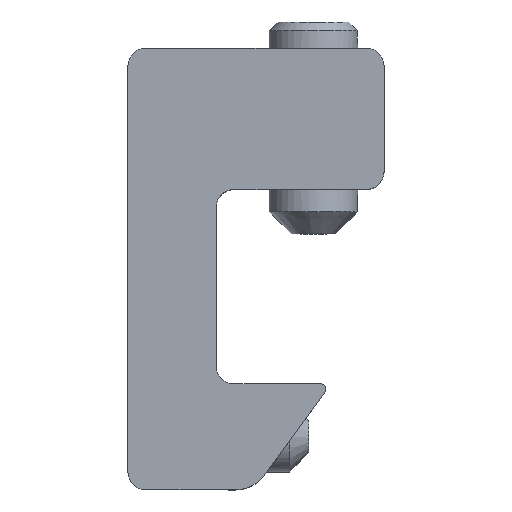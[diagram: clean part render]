
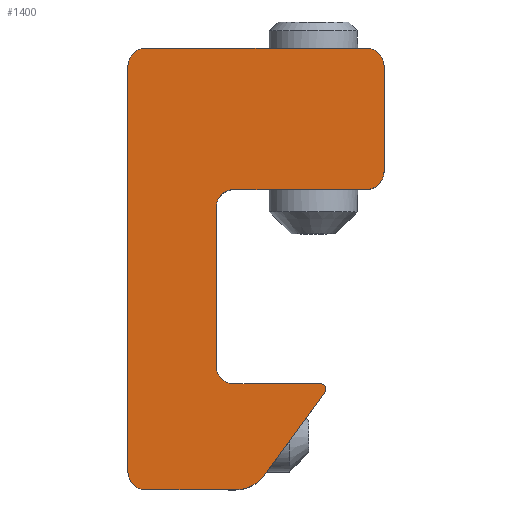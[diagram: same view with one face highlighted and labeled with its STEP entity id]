
A CAD part, top view. The second image highlights one B-rep face of the part: STEP entity #1400.
In plain terms, the highlighted planar face has unit normal (0, 0, 1).
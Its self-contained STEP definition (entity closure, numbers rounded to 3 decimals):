
#828=CARTESIAN_POINT('',(0.,1.,4.5));
#829=VERTEX_POINT('',#828);
#830=CARTESIAN_POINT('',(0.,24.,4.5));
#831=VERTEX_POINT('',#830);
#832=CARTESIAN_POINT('',(0.,1.,4.5));
#833=DIRECTION('',(0.0,1.0,0.0));
#834=VECTOR('',#833,23.);
#835=LINE('',#832,#834);
#836=EDGE_CURVE('',#829,#831,#835,.T.);
#1010=CARTESIAN_POINT('',(1.,25.,4.5));
#1011=VERTEX_POINT('',#1010);
#1012=CARTESIAN_POINT('',(13.5,25.,4.5));
#1013=VERTEX_POINT('',#1012);
#1014=CARTESIAN_POINT('',(1.,25.,4.5));
#1015=DIRECTION('',(1.0,0.0,0.0));
#1016=VECTOR('',#1015,12.5);
#1017=LINE('',#1014,#1016);
#1018=EDGE_CURVE('',#1011,#1013,#1017,.T.);
#1044=CARTESIAN_POINT('',(14.5,24.,4.5));
#1045=VERTEX_POINT('',#1044);
#1046=CARTESIAN_POINT('',(13.5,24.,4.5));
#1047=DIRECTION('',(0.0,0.0,-1.0));
#1048=DIRECTION('',(1.0,0.0,0.0));
#1049=AXIS2_PLACEMENT_3D('',#1046,#1047,#1048);
#1050=CIRCLE('',#1049,1.0);
#1051=EDGE_CURVE('',#1013,#1045,#1050,.T.);
#1069=CARTESIAN_POINT('',(14.5,18.,4.5));
#1070=VERTEX_POINT('',#1069);
#1071=CARTESIAN_POINT('',(14.5,24.,4.5));
#1072=DIRECTION('',(0.0,-1.0,0.0));
#1073=VECTOR('',#1072,6.);
#1074=LINE('',#1071,#1073);
#1075=EDGE_CURVE('',#1045,#1070,#1074,.T.);
#1093=CARTESIAN_POINT('',(13.5,17.,4.5));
#1094=VERTEX_POINT('',#1093);
#1095=CARTESIAN_POINT('',(13.5,18.,4.5));
#1096=DIRECTION('',(0.0,0.0,-1.0));
#1097=DIRECTION('',(0.0,-1.0,0.0));
#1098=AXIS2_PLACEMENT_3D('',#1095,#1096,#1097);
#1099=CIRCLE('',#1098,1.0);
#1100=EDGE_CURVE('',#1070,#1094,#1099,.T.);
#1118=CARTESIAN_POINT('',(6.,17.0,4.5));
#1119=VERTEX_POINT('',#1118);
#1120=CARTESIAN_POINT('',(13.5,17.,4.5));
#1121=DIRECTION('',(-1.0,0.0,0.0));
#1122=VECTOR('',#1121,7.5);
#1123=LINE('',#1120,#1122);
#1124=EDGE_CURVE('',#1094,#1119,#1123,.T.);
#1145=CARTESIAN_POINT('',(5.,16.,4.5));
#1146=VERTEX_POINT('',#1145);
#1147=CARTESIAN_POINT('',(6.,16.,4.5));
#1148=DIRECTION('',(0.0,0.0,1.0));
#1149=DIRECTION('',(0.0,-1.0,0.0));
#1150=AXIS2_PLACEMENT_3D('',#1147,#1148,#1149);
#1151=CIRCLE('',#1150,1.0);
#1152=EDGE_CURVE('',#1119,#1146,#1151,.T.);
#1170=CARTESIAN_POINT('',(5.,7.,4.5));
#1171=VERTEX_POINT('',#1170);
#1172=CARTESIAN_POINT('',(5.,16.,4.5));
#1173=DIRECTION('',(0.0,-1.0,0.0));
#1174=VECTOR('',#1173,9.);
#1175=LINE('',#1172,#1174);
#1176=EDGE_CURVE('',#1146,#1171,#1175,.T.);
#1194=CARTESIAN_POINT('',(6.,6.,4.5));
#1195=VERTEX_POINT('',#1194);
#1196=CARTESIAN_POINT('',(6.,7.,4.5));
#1197=DIRECTION('',(0.0,0.0,1.0));
#1198=DIRECTION('',(1.0,0.0,0.0));
#1199=AXIS2_PLACEMENT_3D('',#1196,#1197,#1198);
#1200=CIRCLE('',#1199,1.0);
#1201=EDGE_CURVE('',#1171,#1195,#1200,.T.);
#1219=CARTESIAN_POINT('',(10.909,6.,4.5));
#1220=VERTEX_POINT('',#1219);
#1221=CARTESIAN_POINT('',(6.,6.,4.5));
#1222=DIRECTION('',(1.0,0.0,0.0));
#1223=VECTOR('',#1222,4.909);
#1224=LINE('',#1221,#1223);
#1225=EDGE_CURVE('',#1195,#1220,#1224,.T.);
#1243=CARTESIAN_POINT('',(11.151,5.523,4.5));
#1244=VERTEX_POINT('',#1243);
#1245=CARTESIAN_POINT('',(10.909,5.7,4.5));
#1246=DIRECTION('',(0.0,0.0,-1.));
#1247=DIRECTION('',(0.807,-0.59,0.0));
#1248=AXIS2_PLACEMENT_3D('',#1245,#1246,#1247);
#1249=CIRCLE('',#1248,0.3);
#1250=EDGE_CURVE('',#1220,#1244,#1249,.T.);
#1268=CARTESIAN_POINT('',(7.71,0.819,4.5));
#1269=VERTEX_POINT('',#1268);
#1270=CARTESIAN_POINT('',(11.151,5.523,4.5));
#1271=DIRECTION('',(-0.59,-0.807,0.0));
#1272=VECTOR('',#1271,5.828);
#1273=LINE('',#1270,#1272);
#1274=EDGE_CURVE('',#1244,#1269,#1273,.T.);
#1296=CARTESIAN_POINT('',(6.096,0.,4.5));
#1297=VERTEX_POINT('',#1296);
#1298=CARTESIAN_POINT('',(6.096,2.,4.5));
#1299=DIRECTION('',(0.0,0.0,-1.0));
#1300=DIRECTION('',(0.0,-1.0,0.0));
#1301=AXIS2_PLACEMENT_3D('',#1298,#1299,#1300);
#1302=CIRCLE('',#1301,2.);
#1303=EDGE_CURVE('',#1269,#1297,#1302,.T.);
#1321=CARTESIAN_POINT('',(1.,0.,4.5));
#1322=VERTEX_POINT('',#1321);
#1323=CARTESIAN_POINT('',(6.096,0.,4.5));
#1324=DIRECTION('',(-1.0,0.0,0.0));
#1325=VECTOR('',#1324,5.096);
#1326=LINE('',#1323,#1325);
#1327=EDGE_CURVE('',#1297,#1322,#1326,.T.);
#1345=CARTESIAN_POINT('',(1.,1.,4.5));
#1346=DIRECTION('',(0.0,0.0,-1.0));
#1347=DIRECTION('',(-1.0,0.0,0.0));
#1348=AXIS2_PLACEMENT_3D('',#1345,#1346,#1347);
#1349=CIRCLE('',#1348,1.0);
#1350=EDGE_CURVE('',#1322,#829,#1349,.T.);
#1364=CARTESIAN_POINT('',(1.,24.,4.5));
#1365=DIRECTION('',(0.0,0.0,-1.0));
#1366=DIRECTION('',(0.0,1.0,0.0));
#1367=AXIS2_PLACEMENT_3D('',#1364,#1365,#1366);
#1368=CIRCLE('',#1367,1.0);
#1369=EDGE_CURVE('',#831,#1011,#1368,.T.);
#1377=CARTESIAN_POINT('',(5.748,13.412,4.5));
#1378=DIRECTION('',(0.0,0.0,1.0));
#1379=DIRECTION('',(1.0,0.0,0.0));
#1380=AXIS2_PLACEMENT_3D('',#1377,#1378,#1379);
#1381=PLANE('',#1380);
#1382=ORIENTED_EDGE('',*,*,#1018,.F.);
#1383=ORIENTED_EDGE('',*,*,#1369,.F.);
#1384=ORIENTED_EDGE('',*,*,#836,.F.);
#1385=ORIENTED_EDGE('',*,*,#1350,.F.);
#1386=ORIENTED_EDGE('',*,*,#1327,.F.);
#1387=ORIENTED_EDGE('',*,*,#1303,.F.);
#1388=ORIENTED_EDGE('',*,*,#1274,.F.);
#1389=ORIENTED_EDGE('',*,*,#1250,.F.);
#1390=ORIENTED_EDGE('',*,*,#1225,.F.);
#1391=ORIENTED_EDGE('',*,*,#1201,.F.);
#1392=ORIENTED_EDGE('',*,*,#1176,.F.);
#1393=ORIENTED_EDGE('',*,*,#1152,.F.);
#1394=ORIENTED_EDGE('',*,*,#1124,.F.);
#1395=ORIENTED_EDGE('',*,*,#1100,.F.);
#1396=ORIENTED_EDGE('',*,*,#1075,.F.);
#1397=ORIENTED_EDGE('',*,*,#1051,.F.);
#1398=EDGE_LOOP('',(#1382,#1383,#1384,#1385,#1386,#1387,#1388,#1389,#1390,#1391,#1392,#1393,#1394,#1395,#1396,#1397));
#1399=FACE_OUTER_BOUND('',#1398,.T.);
#1400=ADVANCED_FACE('',(#1399),#1381,.T.);
